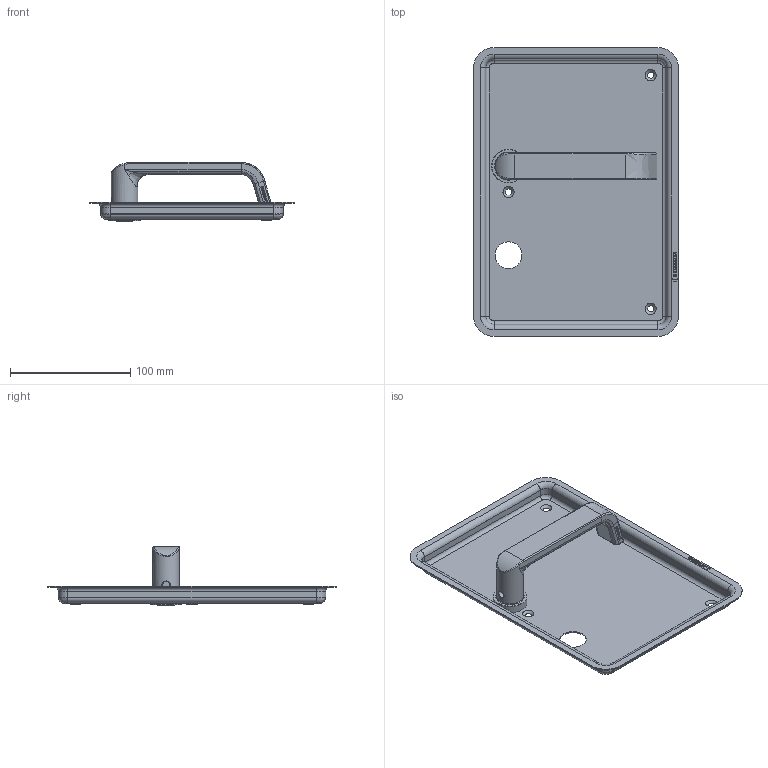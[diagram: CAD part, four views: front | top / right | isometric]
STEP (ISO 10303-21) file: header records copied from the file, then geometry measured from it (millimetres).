
FILE_DESCRIPTION(/* description */ (''),/* implementation_level */ '2;1');
FILE_NAME(/* name */ 'C:\ADSK_DMS_WS\Designs\Vorschläge\Loc Schalen\Muschel Serie 3\S3.13.D2\Heusser-Muschel S3.13.D2.274R.stp',/* time_stamp */ '2020-10-15T17:00:11+02:00',/* author */ ('gm'),/* organization */ (''),/* preprocessor_version */ 'ST-DEVELOPER v16.5',/* originating_system */ 'Autodesk Inventor 2017',/* authorisation */ '');
FILE_SCHEMA (('AUTOMOTIVE_DESIGN { 1 0 10303 214 3 1 1 }'));
Length unit declared in the file: millimetre
Products named in the file (1): S3.13.D1
Bounding box: 170 x 240 x 49 mm (x, y, z)
Volume: 89933.8 mm3; surface area: 109851.7 mm2
Topology: 1 solids, 2 shells, 608 faces, 1594 edges, 1031 vertices
Faces by surface type: plane 294, bspline 212, cylinder 69, torus 17, cone 16
Full cylindrical faces by diameter (mm): 1.7 x2, 6 x1, 14.2 x1, 16 x3, 18 x1, 19 x1, 19.1 x1, 22 x1, 22.3 x1, 23 x1, 23.2 x1, 24 x1, 25 x1, 26 x1, 28 x1
Entity records: 20837 total; most frequent: CARTESIAN_POINT 6402, ORIENTED_EDGE 3102, DIRECTION 2307, EDGE_CURVE 1551, VERTEX_POINT 1026, LINE 953, VECTOR 953, EDGE_LOOP 707
